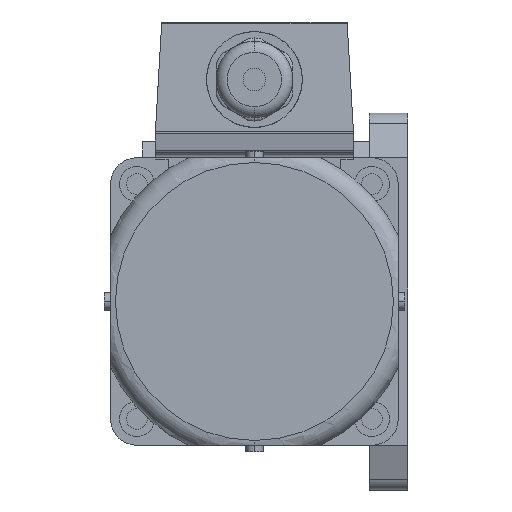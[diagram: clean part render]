
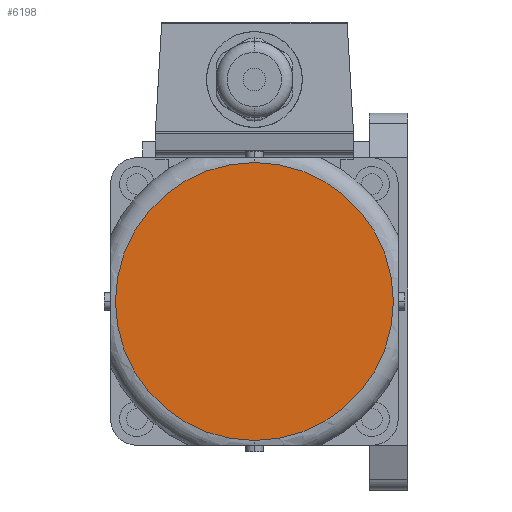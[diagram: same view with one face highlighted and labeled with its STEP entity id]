
A CAD part, left-side view. The second image highlights one B-rep face of the part: STEP entity #6198.
In plain terms, the highlighted planar face has unit normal (-1, 0, 0).
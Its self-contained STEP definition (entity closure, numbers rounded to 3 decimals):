
#6178=CARTESIAN_POINT('POINT787286',(-211.5,48.,26.5));
#6179=VERTEX_POINT('VERTEX787286',#6178);
#6180=CARTESIAN_POINT('POINT787287',(-211.5,48.,-60.5));
#6181=VERTEX_POINT('VERTEX787287',#6180);
#6182=CARTESIAN_POINT('POS1310063',(-211.5,48.,-17.));
#6183=DIRECTION('DIR1971801',(-1.,0.,0.));
#6184=DIRECTION('DIR1971802',(0.,0.,-1.));
#6185=AXIS2_PLACEMENT_3D('AXIS661739',#6182,#6183,#6184);
#6186=CIRCLE('ELLIPSE308979',#6185,43.5);
#6187=EDGE_CURVE('EDGE1202756',#6179,#6181,#6186,.T.);
#6188=ORIENTED_EDGE('COEDGE2405505',*,*,#6187,.T.);
#6189=EDGE_CURVE('EDGE1202757',#6181,#6179,#6186,.T.);
#6190=ORIENTED_EDGE('COEDGE2405506',*,*,#6189,.T.);
#6191=EDGE_LOOP('NONE',(#6188,#6190));
#6192=FACE_BOUND('LOOP1',#6191,.T.);
#6193=CARTESIAN_POINT('POS1310064',(-211.5,48.,
   5.25));
#6194=DIRECTION('DIR1971803',(-1.,0.,0.));
#6195=DIRECTION('DIR1971804',(0.,1.,0.));
#6196=AXIS2_PLACEMENT_3D('AXIS661740',#6193,#6194,#6195);
#6197=PLANE('PLANE213345',#6196);
#6198=ADVANCED_FACE('FACE491962',(#6192),#6197,.T.);
